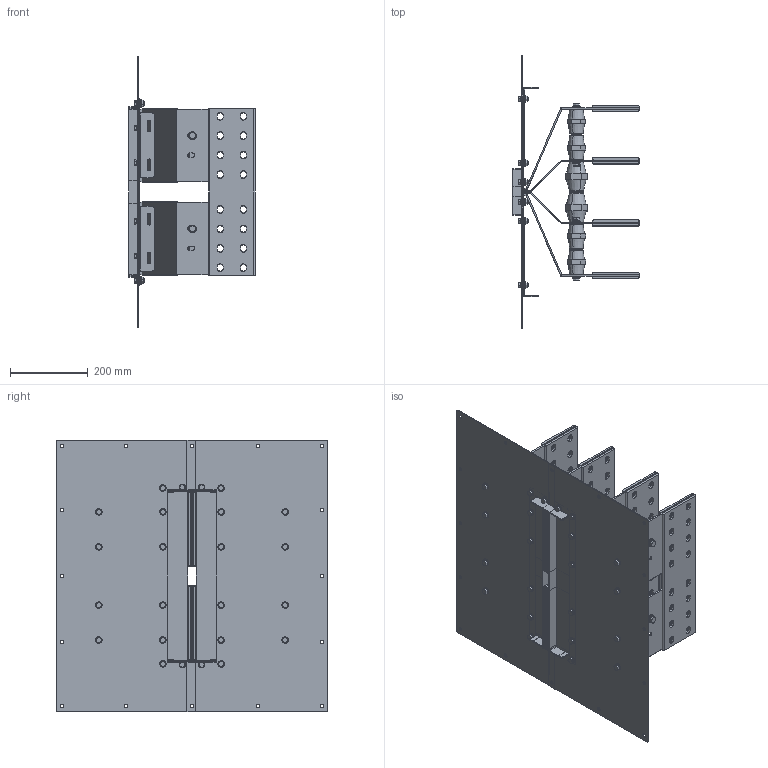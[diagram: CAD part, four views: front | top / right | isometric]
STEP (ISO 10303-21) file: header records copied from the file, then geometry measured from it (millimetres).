
FILE_DESCRIPTION(('CATIA V5 STEP','CAx-IF Rec.Pracs.--- Model Styling and Organization---1.5--- 2016-08-15','CAx-IF Rec.Pracs.---Supplemental Geometry---1.0---2011-11-01','CAx-IF Rec.Pracs.--- Composite Materials ---1.1---2010-07-15'),'2;1');
FILE_NAME('K:\COSCN 2011\32372311_RiduzioneSezioniBarre\03_Studio\__Modelli semplificati\XCP_UB semplificati per studi\XCP-S_UB_4C_Pe_CRT_Assieme\Cu\XCP-S_UB_4C_Pe_D_Assieme - 4000A Cu_CRT\XCP-S_UB_4C_Pe_D_Assieme - 4000A Cu_CRT.stp','2025-05-12T13:19:14+00:00',('Utente Bticino'),('Bticino S.p.A.'),'CATIA Version 5-6 Release 2020 SP5','CATIA V5 STEP AP214 v2','none');
FILE_SCHEMA(('AUTOMOTIVE_DESIGN { 1 0 10303 214 1 1 1 1 }'));
Length unit declared in the file: millimetre
Products named in the file (30): XCP-S_UB_4C_Pe_D_Assieme - 4000A Cu_CRT; XCP-S_UB_4C_Pe_D_PaccoBarre_4000A Cu_CRT; XCP-S_UB_4C_Pe_D_Lamiere_4000A Cu_CRT; XCP-S_UB_4C_Pe_D_PaccoBarre_4000A Cu_CRT_1; XCP-S_UB_4C_Pe_D - 4000A Cu_Bandelle parallelo_CRT; 130006; 130184; 00750033 - RONDELLA PIANA 4.8 D.12 UNI 6592 ZB; Ass_M10x25.1; 00740025 M10x25 UNI5739; Rondella spac M10 UNI 1751; 00750005; 130006_1; 00750033 - RONDELLA PIANA 4.8 D.12 UNI 6592 ZB_1; 130184_1; 130006_2; 00750033 - RONDELLA PIANA 4.8 D.12 UNI 6592 ZB_2; 130006_3; 130006_4; 130184_2; 00750033 - RONDELLA PIANA 4.8 D.12 UNI 6592 ZB_3; 130006_5; 00750033 - RONDELLA PIANA 4.8 D.12 UNI 6592 ZB_4; 130184_3; 130006_6; 00750033 - RONDELLA PIANA 4.8 D.12 UNI 6592 ZB_5; 130006_7; Ass Vite+dado M8; Steel hex flanged SCREW M12x16; Steel hex flanged NUT M8
Assembly tree (63 placements, depth 3):
  XCP-S_UB_4C_Pe_D_Assieme - 4000A Cu_CRT
    XCP-S_UB_4C_Pe_D_PaccoBarre_4000A Cu_CRT
    XCP-S_UB_4C_Pe_D_Lamiere_4000A Cu_CRT
    XCP-S_UB_4C_Pe_D_PaccoBarre_4000A Cu_CRT_1
    XCP-S_UB_4C_Pe_D - 4000A Cu_Bandelle parallelo_CRT
    130006
    130184
    00750033 - RONDELLA PIANA 4.8 D.12 UNI 6592 ZB
    Ass_M10x25.1  x12
      00740025 M10x25 UNI5739
      Rondella spac M10 UNI 1751
      00750005
    130006_1
    00750033 - RONDELLA PIANA 4.8 D.12 UNI 6592 ZB_1
    130184_1
    130006_2
    00750033 - RONDELLA PIANA 4.8 D.12 UNI 6592 ZB_2
    130006_3
    130006_4
    130184_2
    00750033 - RONDELLA PIANA 4.8 D.12 UNI 6592 ZB_3
    130006_5
    00750033 - RONDELLA PIANA 4.8 D.12 UNI 6592 ZB_4
    130184_3
    130006_6
    00750033 - RONDELLA PIANA 4.8 D.12 UNI 6592 ZB_5
    130006_7
    Ass Vite+dado M8  x24
      Steel hex flanged SCREW M12x16
      Steel hex flanged NUT M8
Bounding box: 325 x 700 x 700 mm (x, y, z)
Volume: 7160790.9 mm3; surface area: 3894569.1 mm2
Topology: 132 solids, 132 shells, 3416 faces, 8496 edges, 5404 vertices
Faces by surface type: plane 1560, cylinder 1120, cone 336, bspline 288, torus 112
Entity records: 57577 total; most frequent: CARTESIAN_POINT 11216, ORIENTED_EDGE 10304, DIRECTION 7318, EDGE_CURVE 5152, VERTEX_POINT 3336, VECTOR 3164, LINE 3164, AXIS2_PLACEMENT_3D 3016
